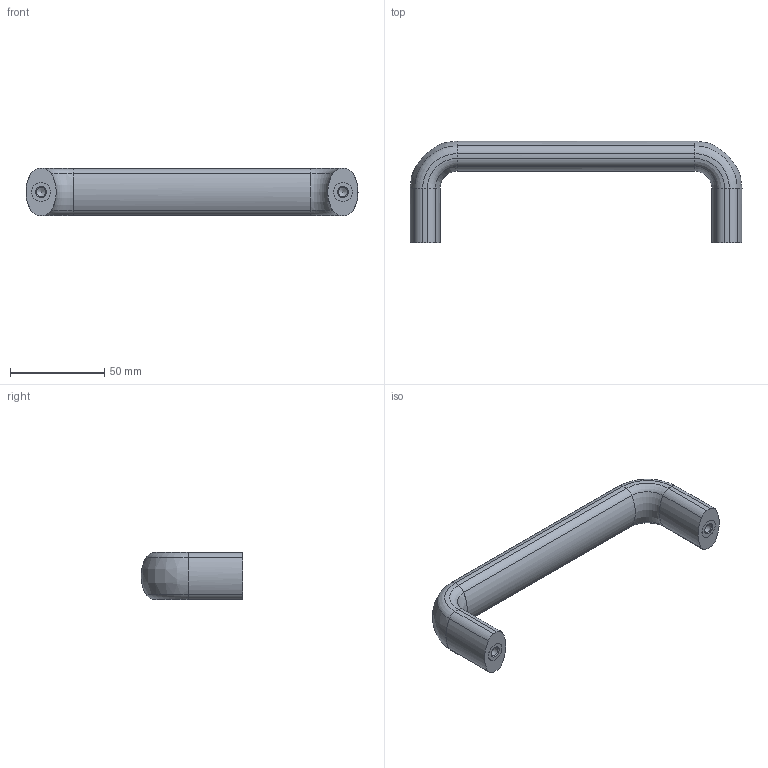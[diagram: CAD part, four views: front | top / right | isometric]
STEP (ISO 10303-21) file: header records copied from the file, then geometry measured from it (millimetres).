
FILE_DESCRIPTION( ( 'STEP AP203' ), '1' );
FILE_NAME( 'C:/Temp/Ganter_Step_05_03_2020/data/1_2/gn_564/Cabinet U-handle GN 564-25-160.stp', '2020-03-05T10:08:38', ( 'License CC BY-ND 4.0' ), ( 'CADENAS' ), ' ', 'PARTsolutions', ' ' );
FILE_SCHEMA( ( 'CONFIG_CONTROL_DESIGN' ) );
Length unit declared in the file: millimetre
Products named in the file (1): _Cabinet U-handle GN 564-25-160
Bounding box: 176 x 54 x 24.99 mm (x, y, z)
Volume: 76190.6 mm3; surface area: 16757.9 mm2
Topology: 1 solids, 1 shells, 58 faces, 140 edges, 86 vertices
Faces by surface type: cylinder 28, torus 14, plane 10, cone 4, bspline 2
Full cylindrical faces by diameter (mm): 4.917 x2, 10 x2
Entity records: 1768 total; most frequent: CARTESIAN_POINT 359, DIRECTION 326, ORIENTED_EDGE 260, AXIS2_PLACEMENT_3D 151, EDGE_CURVE 130, CIRCLE 94, VERTEX_POINT 86, EDGE_LOOP 68
